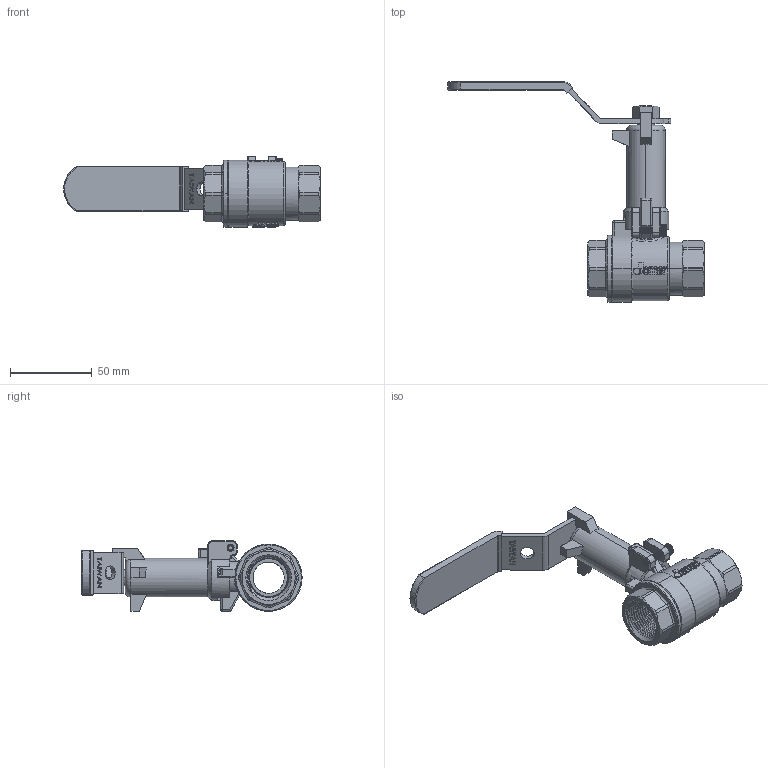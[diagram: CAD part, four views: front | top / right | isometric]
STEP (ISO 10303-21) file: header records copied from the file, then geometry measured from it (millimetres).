
FILE_DESCRIPTION (( 'STEP AP203' ), '1' );
FILE_NAME ('DN20-JOMAR增高套筒估價圖-牙口無掛鎖.STEP', '2024-04-09T07:44:00', ( '' ), ( '' ), 'SwSTEP 2.0', 'SolidWorks 2018', '' );
FILE_SCHEMA (( 'CONFIG_CONTROL_DESIGN' ));
Length unit declared in the file: millimetre
Products named in the file (17): EBL205B; DN20-PIPE 2-2; GBL205 (組裝); DN20-白鐵中心栓+配件; TBL264A; SCREW-M4-19L; BBL704A-0.75''''JOMAR球閥八角頭-無鉛無插溝; DN20-白鐵中心栓牙套; EBL104; DN20-JOMAR增高套筒估價圖-牙口無掛鎖; NBL265; BBL704-0.75''''JOMAR球閥體-無鉛無插溝; CBL235-20230914改; RBL264; CBL215-白色膠套-T-200CSSG; EBL205A; DN20-CBL704-HANDLE & SLEEVE 組合(白色T膠套)
Assembly tree (18 placements, depth 3):
  DN20-JOMAR增高套筒估價圖-牙口無掛鎖
    BBL704-0.75''''JOMAR球閥體-無鉛無插溝
    RBL264
    EBL205A
    EBL205B
    GBL205 (組裝)
    TBL264A
    BBL704A-0.75''''JOMAR球閥八角頭-無鉛無插溝
    EBL104  x2
    NBL265
    DN20-CBL704-HANDLE & SLEEVE 組合(白色T膠套)
      CBL235-20230914改
      CBL215-白色膠套-T-200CSSG
    CBL215-白色膠套-T-200CSSG
    DN20-PIPE 2-2
    DN20-白鐵中心栓+配件
    SCREW-M4-19L
    DN20-白鐵中心栓牙套
Bounding box: 156.6 x 134.51 x 43 mm (x, y, z)
Volume: 91874.4 mm3; surface area: 79122.7 mm2
Topology: 17 solids, 17 shells, 4209 faces, 11363 edges, 7503 vertices
Faces by surface type: plane 2245, bspline 1125, cylinder 611, cone 165, torus 49, sphere 14
Entity records: 161639 total; most frequent: CARTESIAN_POINT 95575, ORIENTED_EDGE 15190, DIRECTION 10459, EDGE_CURVE 7595, VERTEX_POINT 5000, VECTOR 4161, LINE 4161, AXIS2_PLACEMENT_3D 3149
